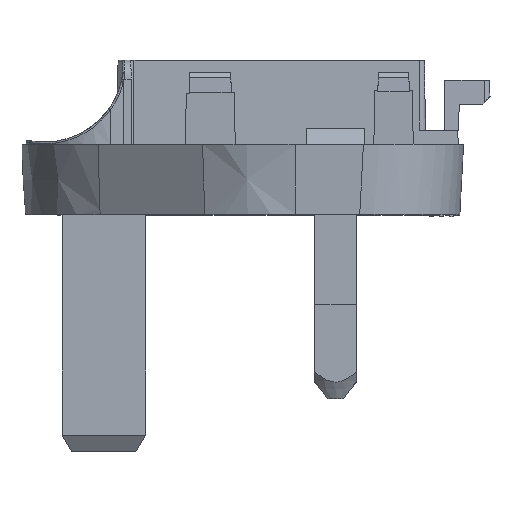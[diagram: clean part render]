
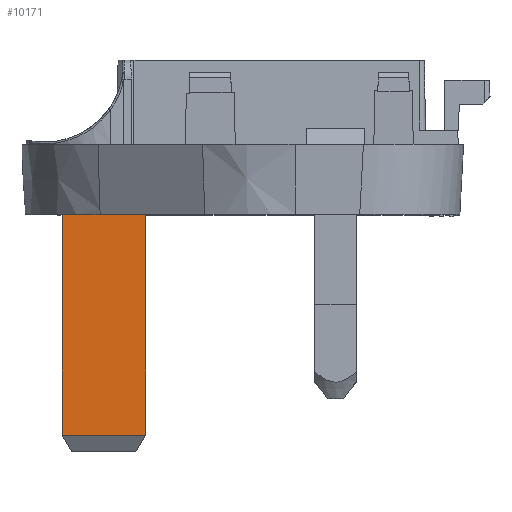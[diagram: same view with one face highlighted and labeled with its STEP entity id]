
A CAD part, top view. The second image highlights one B-rep face of the part: STEP entity #10171.
In plain terms, the highlighted planar face has unit normal (0, 0, 1).
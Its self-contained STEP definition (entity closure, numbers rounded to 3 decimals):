
#775=FACE_OUTER_BOUND('',#1347,.T.);
#1347=EDGE_LOOP('',(#7586,#7587,#7588,#7589));
#2028=LINE('',#15186,#3185);
#2281=LINE('',#15901,#3438);
#2284=LINE('',#15908,#3441);
#2286=LINE('',#15911,#3443);
#3185=VECTOR('',#12034,8.);
#3438=VECTOR('',#12479,21.1);
#3441=VECTOR('',#12486,21.1);
#3443=VECTOR('',#12490,8.);
#4364=VERTEX_POINT('',#15183);
#4365=VERTEX_POINT('',#15185);
#4620=VERTEX_POINT('',#15899);
#4622=VERTEX_POINT('',#15907);
#5437=EDGE_CURVE('',#4364,#4365,#2028,.T.);
#5750=EDGE_CURVE('',#4620,#4364,#2281,.T.);
#5753=EDGE_CURVE('',#4365,#4622,#2284,.T.);
#5755=EDGE_CURVE('',#4620,#4622,#2286,.T.);
#7586=ORIENTED_EDGE('',*,*,#5750,.F.);
#7587=ORIENTED_EDGE('',*,*,#5755,.T.);
#7588=ORIENTED_EDGE('',*,*,#5753,.F.);
#7589=ORIENTED_EDGE('',*,*,#5437,.F.);
#9769=PLANE('',#10860);
#10171=ADVANCED_FACE('',(#775),#9769,.T.);
#10860=AXIS2_PLACEMENT_3D('',#15910,#12488,#12489);
#12034=DIRECTION('',(1.,0.,0.));
#12479=DIRECTION('',(0.,1.,0.));
#12486=DIRECTION('',(0.,-1.,0.));
#12488=DIRECTION('center_axis',(0.,0.,1.));
#12489=DIRECTION('ref_axis',(1.,0.,0.));
#12490=DIRECTION('',(1.,0.,0.));
#15183=CARTESIAN_POINT('',(-40.2,-19.4,2.));
#15185=CARTESIAN_POINT('',(-32.2,-19.4,2.));
#15186=CARTESIAN_POINT('',(0.,-19.4,2.));
#15899=CARTESIAN_POINT('',(-40.2,-40.5,2.));
#15901=CARTESIAN_POINT('',(-40.2,-19.4,2.));
#15907=CARTESIAN_POINT('',(-32.2,-40.5,2.));
#15908=CARTESIAN_POINT('',(-32.2,-19.4,2.));
#15910=CARTESIAN_POINT('Origin',(-32.2,-19.4,2.));
#15911=CARTESIAN_POINT('',(-32.2,-40.5,2.));
